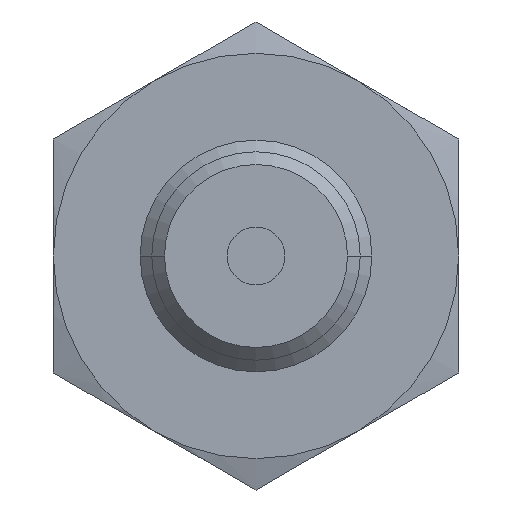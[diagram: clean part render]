
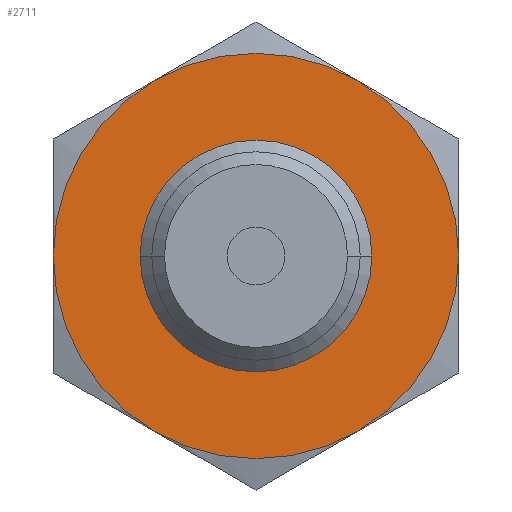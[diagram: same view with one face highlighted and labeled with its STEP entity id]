
A CAD part, front view. The second image highlights one B-rep face of the part: STEP entity #2711.
In plain terms, the highlighted planar face has unit normal (0, -1, 0) as drawn and (0, 0, 1) by its records, which use the part's own axes.
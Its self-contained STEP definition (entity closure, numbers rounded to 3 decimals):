
#2195=CARTESIAN_POINT('',(0.,0.,2.2));
#2196=DIRECTION('',(0.,0.,1.));
#2197=DIRECTION('',(-0.5,-0.866,0.));
#2198=AXIS2_PLACEMENT_3D('',#2195,#2196,#2197);
#2203=CARTESIAN_POINT('',(0.,0.,2.2));
#2204=DIRECTION('',(0.,0.,-1.));
#2205=DIRECTION('',(-0.5,-0.866,0.));
#2206=AXIS2_PLACEMENT_3D('',#2203,#2204,#2205);
#2211=CARTESIAN_POINT('',(0.,0.,2.2));
#2212=DIRECTION('',(0.,0.,-1.));
#2213=DIRECTION('',(-1.,0.,0.));
#2214=AXIS2_PLACEMENT_3D('',#2211,#2212,#2213);
#2219=CARTESIAN_POINT('',(0.,0.,2.2));
#2220=DIRECTION('',(0.,0.,-1.));
#2221=DIRECTION('',(0.5,0.866,0.));
#2222=AXIS2_PLACEMENT_3D('',#2219,#2220,#2221);
#2227=CARTESIAN_POINT('',(0.,0.,2.2));
#2228=DIRECTION('',(0.,0.,-1.));
#2229=DIRECTION('',(1.,0.,0.));
#2230=AXIS2_PLACEMENT_3D('',#2227,#2228,#2229);
#2235=CARTESIAN_POINT('',(0.,0.,2.2));
#2236=DIRECTION('',(0.,0.,-1.));
#2237=DIRECTION('',(0.,-1.,0.));
#2238=AXIS2_PLACEMENT_3D('',#2235,#2236,#2237);
#2243=CARTESIAN_POINT('',(0.,0.,2.2));
#2244=DIRECTION('',(0.,0.,-1.));
#2245=DIRECTION('',(0.,1.,0.));
#2246=AXIS2_PLACEMENT_3D('',#2243,#2244,#2245);
#2251=CARTESIAN_POINT('',(0.,0.,2.2));
#2252=DIRECTION('',(0.,0.,1.));
#2253=DIRECTION('',(0.5,0.866,0.));
#2254=AXIS2_PLACEMENT_3D('',#2251,#2252,#2253);
#2377=CARTESIAN_POINT('',(-1.75,-3.031,2.2));
#2378=CARTESIAN_POINT('',(-3.5,0.,2.2));
#2379=VERTEX_POINT('',#2377);
#2380=VERTEX_POINT('',#2378);
#2381=CARTESIAN_POINT('',(-1.75,3.031,2.2));
#2382=VERTEX_POINT('',#2381);
#2383=CARTESIAN_POINT('',(1.75,3.031,2.2));
#2384=CARTESIAN_POINT('',(3.5,0.,2.2));
#2385=VERTEX_POINT('',#2383);
#2386=VERTEX_POINT('',#2384);
#2387=CARTESIAN_POINT('',(1.75,-3.031,2.2));
#2388=VERTEX_POINT('',#2387);
#2405=CARTESIAN_POINT('',(0.,-2.,2.2));
#2406=CARTESIAN_POINT('',(0.,2.,2.2));
#2407=VERTEX_POINT('',#2405);
#2408=VERTEX_POINT('',#2406);
#2691=CARTESIAN_POINT('',(0.,0.,2.2));
#2692=DIRECTION('',(0.,0.,1.));
#2693=DIRECTION('',(1.,0.,0.));
#2694=AXIS2_PLACEMENT_3D('',#2691,#2692,#2693);
#2695=PLANE('',#2694);
#2696=ORIENTED_EDGE('',*,*,#2686,.F.);
#2697=ORIENTED_EDGE('',*,*,#2648,.T.);
#2698=ORIENTED_EDGE('',*,*,#2636,.T.);
#2700=ORIENTED_EDGE('',*,*,#2699,.F.);
#2701=ORIENTED_EDGE('',*,*,#2660,.T.);
#2702=ORIENTED_EDGE('',*,*,#2672,.T.);
#2703=EDGE_LOOP('',(#2696,#2697,#2698,#2700,#2701,#2702));
#2704=FACE_OUTER_BOUND('',#2703,.F.);
#2706=ORIENTED_EDGE('',*,*,#2705,.F.);
#2708=ORIENTED_EDGE('',*,*,#2707,.F.);
#2709=EDGE_LOOP('',(#2706,#2708));
#2710=FACE_BOUND('',#2709,.F.);
#2199=CIRCLE('',#2198,3.5);
#2207=CIRCLE('',#2206,3.5);
#2215=CIRCLE('',#2214,3.5);
#2223=CIRCLE('',#2222,3.5);
#2231=CIRCLE('',#2230,3.5);
#2239=CIRCLE('',#2238,2.);
#2247=CIRCLE('',#2246,2.);
#2255=CIRCLE('',#2254,3.5);
#2636=EDGE_CURVE('',#2380,#2382,#2215,.T.);
#2648=EDGE_CURVE('',#2379,#2380,#2207,.T.);
#2660=EDGE_CURVE('',#2385,#2386,#2223,.T.);
#2672=EDGE_CURVE('',#2386,#2388,#2231,.T.);
#2686=EDGE_CURVE('',#2379,#2388,#2199,.T.);
#2699=EDGE_CURVE('',#2385,#2382,#2255,.T.);
#2705=EDGE_CURVE('',#2407,#2408,#2239,.T.);
#2707=EDGE_CURVE('',#2408,#2407,#2247,.T.);
#2711=ADVANCED_FACE('',(#2704,#2710),#2695,.T.);
